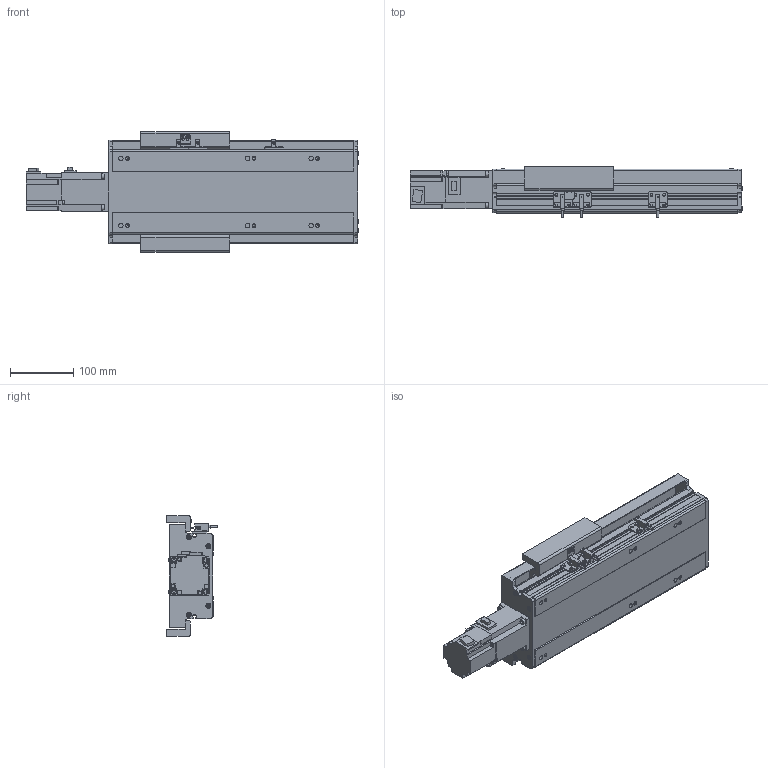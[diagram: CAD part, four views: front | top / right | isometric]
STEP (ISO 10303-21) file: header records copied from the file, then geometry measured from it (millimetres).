
FILE_DESCRIPTION(/* description */ ('STEP AP214'),/* implementation_level */ '2;1');
FILE_NAME(/* name */ 'PSM140-L10-S150-BC-T40-C1-N(0)',/* time_stamp */ '2022-06-13T03:18:30+02:00',/* author */ ('License CC BY-ND 4.0'),/* organization */ ('CADENAS'),/* preprocessor_version */ 'ST-DEVELOPER v18.102',/* originating_system */ 'PARTsolutions',/* authorisation */ ' ');
FILE_SCHEMA (('AUTOMOTIVE_DESIGN {1 0 10303 214 3 1 1}'));
Length unit declared in the file: millimetre
Products named in the file (7): PSM140-L10-S150-BC-T40-C1-N(0); PSM-Sensor; PSM140-S150-392.5; T40-p1; PSM140_body3; PSM140-S150_body1; PSM140-L10-S150-BC-T40-C1-N(0)_dummy
Assembly tree (10 placements, depth 2):
  PSM140-L10-S150-BC-T40-C1-N(0)
    PSM-Sensor  x3
    PSM140-S150-392.5  x3
    T40-p1
    PSM140_body3
    PSM140-S150_body1
    PSM140-L10-S150-BC-T40-C1-N(0)_dummy
Bounding box: 523.7 x 81.3 x 190 mm (x, y, z)
Volume: 2420829.5 mm3; surface area: 505896.8 mm2
Topology: 9 solids, 9 shells, 912 faces, 2403 edges, 1562 vertices
Faces by surface type: plane 616, cylinder 234, cone 48, torus 14
Full cylindrical faces by diameter (mm): 2.8 x3, 4.5 x12, 4.6 x3, 4.917 x14, 5.5 x7, 5.7 x6, 6 x2, 7 x14, 8 x8, 8.5 x4, 10.5 x6, 14 x1, 50 x1
Entity records: 23116 total; most frequent: CARTESIAN_POINT 4065, DIRECTION 3923, ORIENTED_EDGE 3710, EDGE_CURVE 1855, LINE 1337, VECTOR 1337, AXIS2_PLACEMENT_3D 1293, VERTEX_POINT 1288
